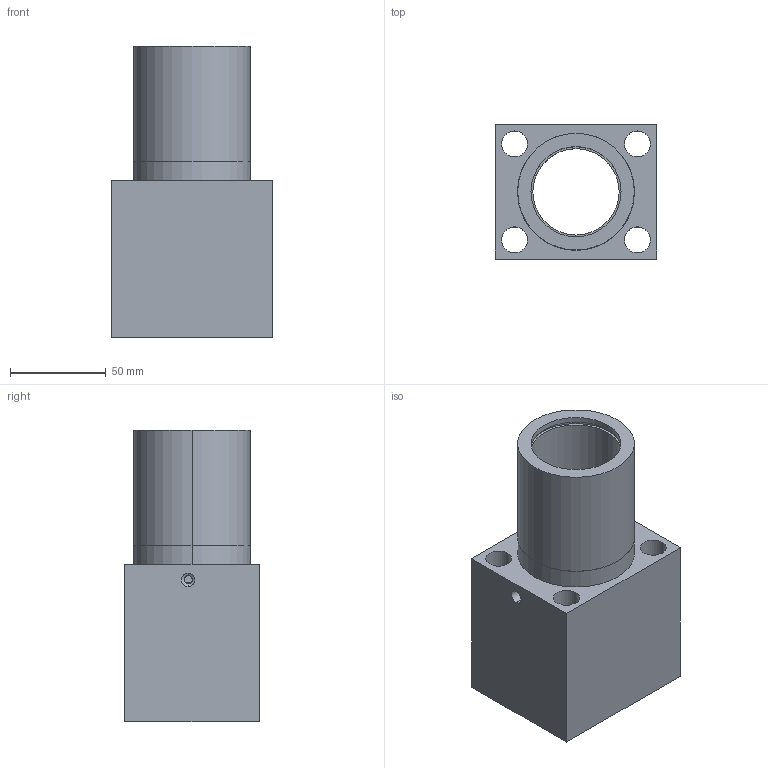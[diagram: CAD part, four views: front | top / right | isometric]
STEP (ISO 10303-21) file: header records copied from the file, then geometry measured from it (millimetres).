
FILE_DESCRIPTION (( 'STEP AP203' ), '1' );
FILE_NAME ('KTFG83-30.SLDPRT.step', '2020-06-15T06:33:39', ( '' ), ( '' ), 'SwSTEP 2.0', 'SolidWorks 2019', '' );
FILE_SCHEMA (( 'CONFIG_CONTROL_DESIGN' ));
Length unit declared in the file: millimetre
Products named in the file (2): KTFG83-30.SLDPRT
Bounding box: 84 x 70 x 152 mm (x, y, z)
Volume: 373096.6 mm3; surface area: 83686.8 mm2
Topology: 1 solids, 1 shells, 63 faces, 145 edges, 90 vertices
Faces by surface type: cylinder 39, plane 14, cone 10
Entity records: 2018 total; most frequent: CARTESIAN_POINT 356, DIRECTION 345, ORIENTED_EDGE 290, EDGE_CURVE 145, AXIS2_PLACEMENT_3D 141, VERTEX_POINT 90, EDGE_LOOP 81, CIRCLE 76
